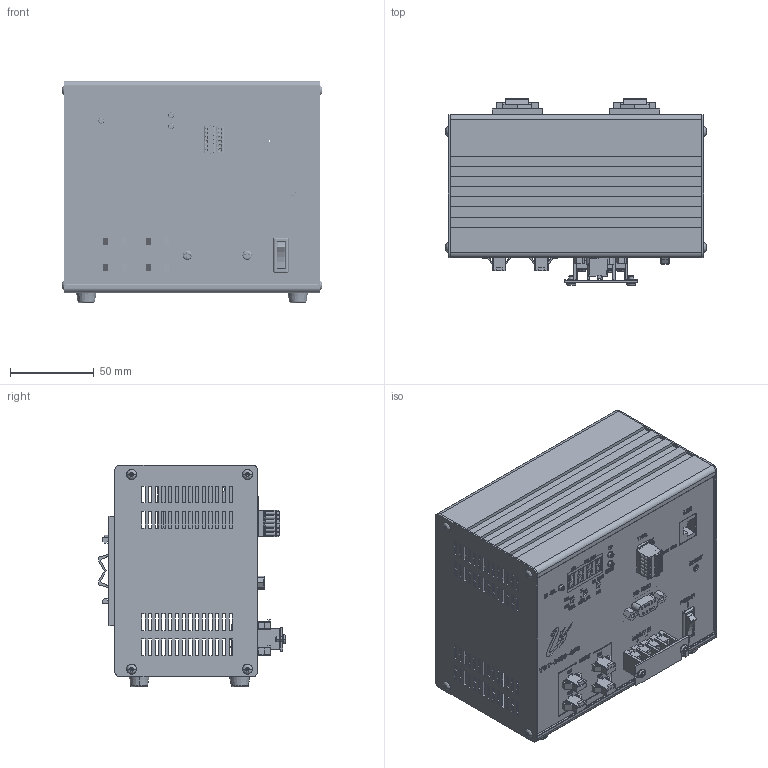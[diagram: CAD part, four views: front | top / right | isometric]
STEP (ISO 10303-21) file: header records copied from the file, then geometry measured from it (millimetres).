
FILE_DESCRIPTION(('STEP AP214'),'1');
FILE_NAME('VCT-2460-4ES_3D_P1013A-A00100.step','2023-12-12T03:40:23',(' '),(' '),'Spatial InterOp 3D',' ',' ');
FILE_SCHEMA(('AUTOMOTIVE_DESIGN { 1 0 10303 214 1 1 1 1 }'));
Length unit declared in the file: millimetre
Products named in the file (77): BSF-305E_2_1_2; BSF-305E_sub2_2_1_2; BSF-305E_sub1_2_1_2; TCP_assy_1_1_2; USR-TCP232-T2_1_1_2; TCP_bracket_1_1_2; B6B-XH-A.step_1_1_2; 3.3V_changeboard_1_1_2; c-1-1825027-1-g-3d_1_1_2; PCB_Assey_1_1_2; PCB_Assey_sub47_1_1_2; PCB_Assey_sub31_1_1_2; PCB_Assey_sub29_1_1_2; PCB_Assey_sub30_1_1_2; PCB_Assey_sub45_1_1_2; PCB_Assey_sub14_1_1_2; PCB_Assey_sub4_1_1_2; PCB_Assey_sub16_1_1_2; PCB_Assey_sub34_1_1_2; PCB_Assey_sub40_1_1_2; PCB_Assey_sub18_1_1_2; PCB_Assey_sub15_1_1_2; PCB_Assey_sub33_1_1_2; PCB_Assey_sub26_1_1_2; PCB_Assey_sub7_1_1_2; PCB_Assey_sub12_1_1_2; PCB_Assey_sub35_1_1_2; PCB_Assey_sub41_1_1_2; PCB_Assey_sub22_1_1_2; PCB_Assey_sub1_1_1_2; PCB_Assey_sub10_1_1_2; PCB_Assey_sub25_1_1_2; PCB_Assey_sub17_1_1_2; PCB_Assey_sub6_1_1_2; PCB_Assey_sub24_1_1_2; PCB_Assey_sub46_1_1_2; PCB_Assey_sub21_1_1_2; PCB_Assey_sub28_1_1_2; PCB_Assey_sub39_1_1_2; PCB_Assey_sub2_1_1_2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
Assembly tree (94 placements, depth 3):
  (unnamed)
    BSF-305E_2_1_2  x2
      BSF-305E_sub2_2_1_2
      BSF-305E_sub1_2_1_2
    TCP_assy_1_1_2
      USR-TCP232-T2_1_1_2
      TCP_bracket_1_1_2
      B6B-XH-A.step_1_1_2
      3.3V_changeboard_1_1_2
      c-1-1825027-1-g-3d_1_1_2
    PCB_Assey_1_1_2
      PCB_Assey_sub47_1_1_2
      PCB_Assey_sub31_1_1_2
      PCB_Assey_sub29_1_1_2
      PCB_Assey_sub30_1_1_2
      PCB_Assey_sub45_1_1_2
      PCB_Assey_sub14_1_1_2
      PCB_Assey_sub4_1_1_2
      PCB_Assey_sub16_1_1_2
      PCB_Assey_sub34_1_1_2
      PCB_Assey_sub40_1_1_2
      PCB_Assey_sub18_1_1_2
      PCB_Assey_sub15_1_1_2
      PCB_Assey_sub33_1_1_2
      PCB_Assey_sub26_1_1_2
      PCB_Assey_sub7_1_1_2
      PCB_Assey_sub12_1_1_2
      PCB_Assey_sub35_1_1_2
      PCB_Assey_sub41_1_1_2
      PCB_Assey_sub22_1_1_2
      PCB_Assey_sub1_1_1_2
      PCB_Assey_sub10_1_1_2
      PCB_Assey_sub25_1_1_2
      PCB_Assey_sub17_1_1_2
      PCB_Assey_sub6_1_1_2
      PCB_Assey_sub24_1_1_2
      PCB_Assey_sub46_1_1_2
      PCB_Assey_sub21_1_1_2
      PCB_Assey_sub28_1_1_2
      PCB_Assey_sub39_1_1_2
      PCB_Assey_sub2_1_1_2
      PCB_Assey_sub3_1_1_2
      PCB_Assey_sub37_1_1_2
      PCB_Assey_sub38_1_1_2
      PCB_Assey_sub19_1_1_2
      PCB_Assey_sub44_1_1_2
      PCB_Assey_sub9_1_1_2
      PCB_Assey_sub43_1_1_2
      PCB_Assey_sub20_1_1_2
      PCB_Assey_sub32_1_1_2
      PCB_Assey_sub42_1_1_2
      PCB_Assey_sub8_1_1_2
      PCB_Assey_sub36_1_1_2
      PCB_Assey_sub27_1_1_2
      PCB_Assey_sub23_1_1_2
      PCB_Assey_sub5_1_1_2
      PCB_Assey_sub48_1_1_2
      PCB_Assey_sub11_1_1_2
      PCB_Assey_sub13_1_1_2
    CK11_2_1_2  x4
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Bounding box: 154.98 x 111.29 x 132 mm (x, y, z)
Volume: 254602.4 mm3; surface area: 248486.2 mm2
Topology: 105 solids, 119 shells, 7735 faces, 21232 edges, 14703 vertices
Faces by surface type: plane 5105, cylinder 1683, bspline 782, torus 105, cone 52, sphere 8
Entity records: 287370 total; most frequent: CARTESIAN_POINT 54052, ORIENTED_EDGE 37098, DIRECTION 32467, EDGE_CURVE 18549, LINE 13881, VECTOR 13881, VERTEX_POINT 12231, AXIS2_PLACEMENT_3D 9293
